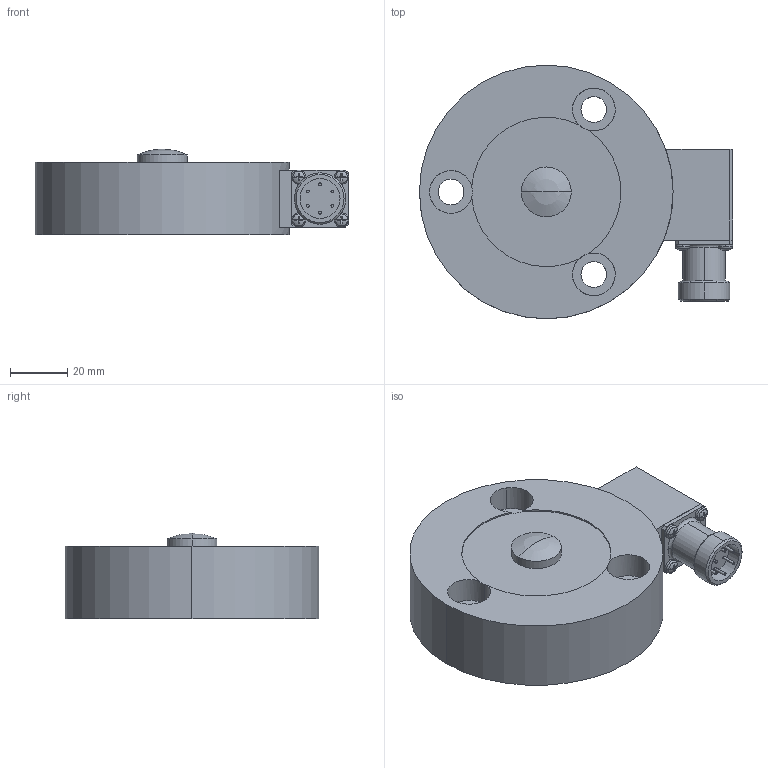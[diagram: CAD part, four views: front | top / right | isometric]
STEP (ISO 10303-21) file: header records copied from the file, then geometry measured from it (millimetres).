
FILE_DESCRIPTION(('STEP AP203'),'1');
FILE_NAME('C:/TPO v2/SharedFS/Outgoing/burster_85043-10_1pe6l79o02cr9lyt4kkqn2fk7.stp','2013-08-27T14:04:07',('TraceParts'),('TraceParts S.A.'),'XStep 1.0',' ',' ');
FILE_SCHEMA(('CONFIG_CONTROL_DESIGN'));
Length unit declared in the file: millimetre
Products named in the file (1): 1
Bounding box: 109.75 x 88.9 x 30 mm (x, y, z)
Volume: 164741.4 mm3; surface area: 26360.8 mm2
Topology: 1 solids, 1 shells, 162 faces, 402 edges, 253 vertices
Faces by surface type: plane 88, cylinder 42, torus 18, cone 12, sphere 2
Entity records: 5258 total; most frequent: CARTESIAN_POINT 1332, DIRECTION 836, ORIENTED_EDGE 800, EDGE_CURVE 400, AXIS2_PLACEMENT_3D 333, VERTEX_POINT 253, EDGE_LOOP 181, CIRCLE 170
